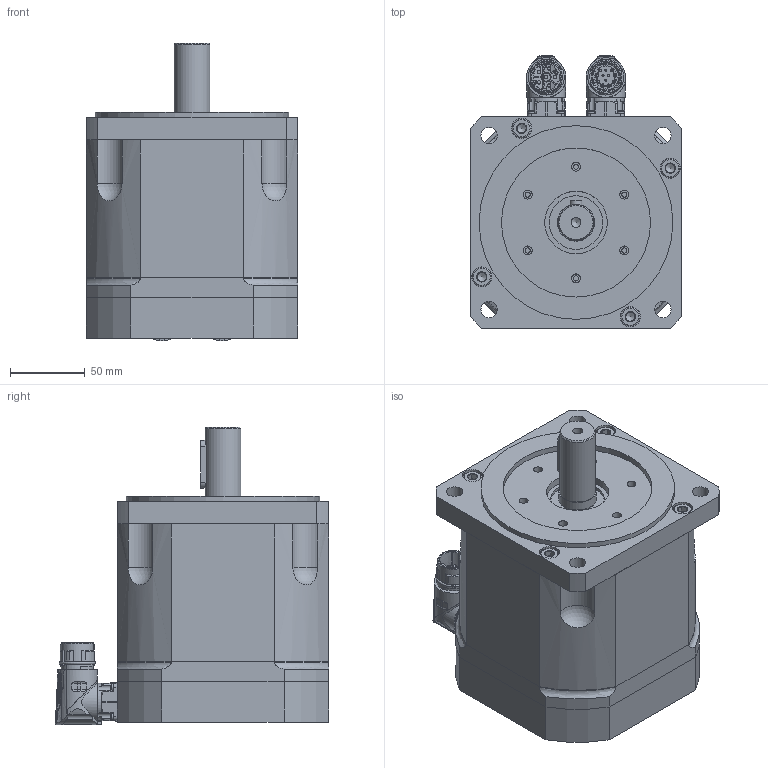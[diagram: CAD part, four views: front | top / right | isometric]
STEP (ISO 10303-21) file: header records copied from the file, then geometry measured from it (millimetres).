
FILE_DESCRIPTION(/* description */ (''),/* implementation_level */ '2;1');
FILE_NAME(/* name */ 'C:\Users\Public\Documents\Autodesk\Inventor LT 2014\Workspace\Motori Sito WEB\TG_COMPATTI\STEP_COMPATTI\DSM5_50_x197.stp',/* time_stamp */ '2021-03-31T14:52:18+02:00',/* author */ ('marcor'),/* organization */ (''),/* preprocessor_version */ 'ST-DEVELOPER v15.2',/* originating_system */ 'Autodesk Inventor LT ',/* authorisation */ '');
FILE_SCHEMA (('AUTOMOTIVE_DESIGN { 1 0 10303 214 3 1 1 }'));
Products named in the file (1): DSM5_50_x197
Bounding box: 142 x 183.5 x 199.91 mm (x, y, z)
Volume: 2789181 mm3; surface area: 275274.4 mm2
Topology: 16 solids, 26 shells, 1502 faces, 3920 edges, 2611 vertices
Faces by surface type: plane 528, cylinder 447, cone 307, bspline 113, torus 75, sphere 32
Full cylindrical faces by diameter (mm): 1.2 x12, 2.224 x8, 2.233 x6, 2.5 x8, 2.88 x8, 3.26 x8, 3.5 x6, 4.5 x2, 4.8 x8, 4.917 x4, 5.5 x3, 5.9 x2, 6 x10, 6.5 x4, 6.647 x9, 8 x8, 8.5 x8, 10 x4, 11 x8, 13 x8, 13.5 x8, 15.2 x1, 17.4 x3, 18 x1, 19.8 x1, 21.15 x4, 21.6 x1, 21.653 x2, 23.8 x1, 24 x1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
Entity records: 53258 total; most frequent: CARTESIAN_POINT 18030, ORIENTED_EDGE 6978, DIRECTION 6539, EDGE_CURVE 3489, AXIS2_PLACEMENT_3D 2654, VERTEX_POINT 2503, EDGE_LOOP 2036, ADVANCED_FACE 1502
